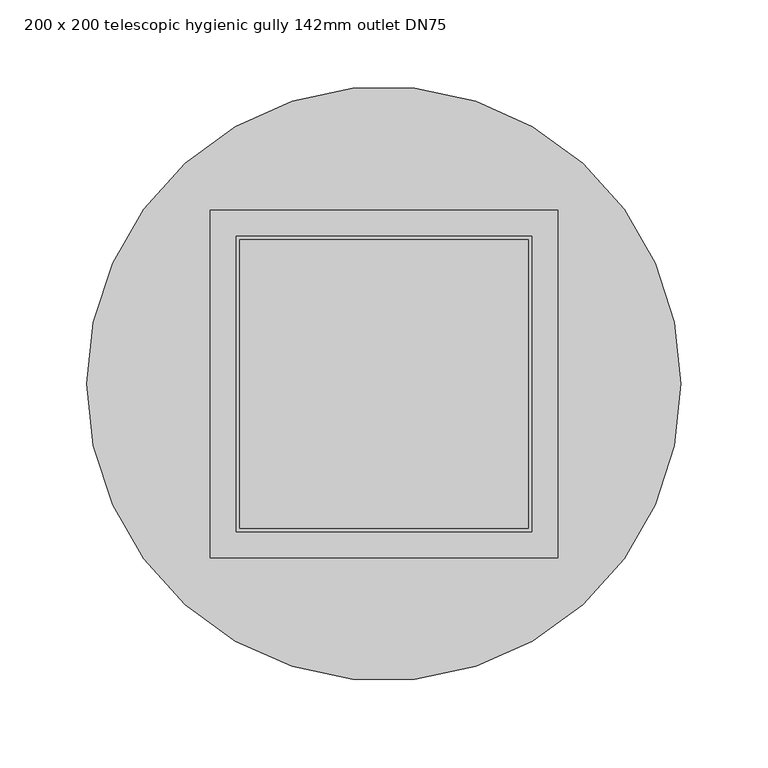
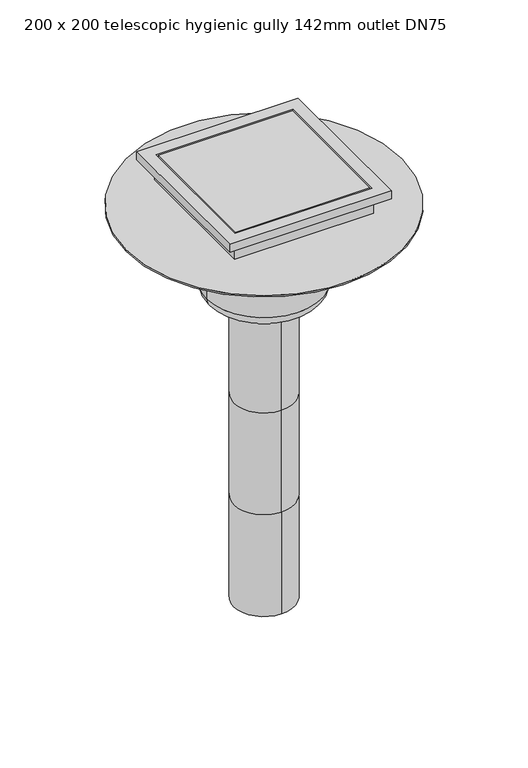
"""IFC4 building model written with IfcOpenShell, lengths in millimetres: sanitary terminal geometry, PF_ST_UN_Siphon telescopics eskis elongated hygiene first_ACO : 200 x 200 telescopic hygienic gully 142mm outlet DN75."""

from ifc_helpers import new_model, si_unit, point, frame, origin, origin_2d, place, context, project, spatial, polyline, circle_curve, ellipse_curve, trimmed, segment, composite_curve, outline, extrude, faceted_brep, source, transform, mapped, element, save
from ifc_brep_helpers import plane_surface, cylinder_surface, revolved_surface, advanced_brep


def sanitary_terminal_200_x_200_telescopic_hygienic_gully_142mm_524e371a(model_context):
    return source(origin(), model_context, "Body", "SolidModel", [
        extrude(outline(composite_curve([segment(trimmed(circle_curve(origin_2d(), 62.5), [point((-62.5, 0.0))], [point((62.5, 0.0))], False, "CARTESIAN"), True, "CONTINUOUS"), segment(trimmed(circle_curve(origin_2d(), 62.5), [point((62.5, 0.0))], [point((-62.5, 0.0))], False, "CARTESIAN"), True, "CONTINUOUS")], self_intersect=False)), frame((0.0, 0.0, -198.0), z_axis=(0.0, 0.0, 1.0), x_axis=(1.0, 0.0, 0.0)), (0.0, 0.0, 1.0), 45.0),
        faceted_brep([(100.0, 100.0, -130.0), (100.0, 100.0, -120.0), (100.0, -100.0, -120.0), (100.0, -100.0, -130.0), (86.0, 86.0, -153.0), (86.0, 86.0, -130.0), (86.0, -86.0, -130.0), (86.0, -86.0, -153.0), (85.0, -85.0, -120.0), (85.0, 85.0, -120.0), (85.0, 85.0, -143.0), (85.0, -85.0, -143.0), (-100.0, -100.0, -120.0), (-100.0, -100.0, -130.0), (-86.0, -86.0, -130.0), (-86.0, -86.0, -153.0), (-85.0, -85.0, -120.0), (-85.0, -85.0, -143.0), (-100.0, 100.0, -120.0), (-100.0, 100.0, -130.0), (-86.0, 86.0, -130.0), (-86.0, 86.0, -153.0), (-85.0, 85.0, -120.0), (-85.0, 85.0, -143.0)], [[[0, 1, 2, 3]], [[4, 5, 6, 7]], [[8, 9, 10, 11]], [[3, 2, 12, 13]], [[7, 6, 14, 15]], [[16, 8, 11, 17]], [[13, 12, 18, 19]], [[15, 14, 20, 21]], [[22, 16, 17, 23]], [[2, 1, 18, 12], [9, 8, 16, 22]], [[1, 0, 19, 18]], [[0, 3, 13, 19], [6, 5, 20, 14]], [[5, 4, 21, 20]], [[4, 7, 15, 21]], [[9, 22, 23, 10]], [[11, 10, 23, 17]]]),
        extrude(outline(polyline([(83.0, 83.0), (83.0, -83.0), (-83.0, -83.0), (-83.0, 83.0), (83.0, 83.0)])), frame((0.0, 0.0, -143.0), z_axis=(0.0, 0.0, 1.0), x_axis=(1.0, 0.0, 0.0)), (0.0, 0.0, 1.0), 23.0),
        advanced_brep(
        [(0.0, -37.5, -677.0), (0.0, 37.5, -677.0), (0.0, -37.5, -543.6666667), (0.0, 37.5, -543.6666667), (0.0, -37.5, -410.3333333), (0.0, 37.5, -410.3333333), (0.0, 37.5, -277.0), (37.5, 0.0, -277.0), (0.0, -37.5, -277.0), (-37.5, 0.0, -277.0), (71.0, 0.0, -262.0), (-71.0, 0.0, -262.0), (-71.0, 0.0, -165.0), (71.0, 0.0, -165.0), (56.0, 0.0, -277.0), (-56.0, 0.0, -277.0), (-171.0, 0.0, -165.0), (171.0, 0.0, -165.0), (-171.0, 0.0, -163.0), (171.0, 0.0, -163.0)],
        [
            (0, 1, circle_curve(frame((0.0, 0.0, -677.0), z_axis=(0.0, 0.0, -1.0), x_axis=(0.0, 1.0, 0.0)), 37.5)),
            (1, 0, circle_curve(frame((0.0, 0.0, -677.0), z_axis=(0.0, 0.0, -1.0), x_axis=(0.0, 1.0, 0.0)), 37.5)),
            (0, 2),
            (2, 3, circle_curve(frame((0.0, 0.0, -543.6666667), z_axis=(0.0, 0.0, -1.0), x_axis=(0.0, 1.0, 0.0)), 37.5)),
            (3, 1),
            (3, 2, circle_curve(frame((0.0, 0.0, -543.6666667), z_axis=(0.0, 0.0, -1.0), x_axis=(0.0, 1.0, 0.0)), 37.5)),
            (4, 2),
            (3, 5),
            (5, 4, circle_curve(frame((0.0, 0.0, -410.3333333), z_axis=(0.0, 0.0, -1.0), x_axis=(1.0, 0.0, 0.0)), 37.5)),
            (4, 5, circle_curve(frame((0.0, 0.0, -410.3333333), z_axis=(0.0, 0.0, -1.0), x_axis=(-1.0, 0.0, 0.0)), 37.5)),
            (5, 6),
            (6, 7, circle_curve(frame((0.0, 0.0, -277.0), z_axis=(0.0, 0.0, -1.0), x_axis=(0.0, 1.0, 0.0)), 37.5)),
            (7, 8, circle_curve(frame((0.0, 0.0, -277.0), z_axis=(0.0, 0.0, -1.0), x_axis=(0.0, 1.0, 0.0)), 37.5)),
            (8, 4),
            (8, 9, circle_curve(frame((0.0, 0.0, -277.0), z_axis=(0.0, 0.0, -1.0), x_axis=(0.0, 1.0, 0.0)), 37.5)),
            (9, 6, circle_curve(frame((0.0, 0.0, -277.0), z_axis=(0.0, 0.0, -1.0), x_axis=(0.0, 1.0, 0.0)), 37.5)),
            (10, 11, circle_curve(frame((0.0, 0.0, -262.0), z_axis=(0.0, 0.0, 1.0), x_axis=(-1.0, 0.0, 0.0)), 71.0)),
            (11, 12),
            (12, 13, circle_curve(frame((0.0, 0.0, -165.0), z_axis=(0.0, 0.0, -1.0), x_axis=(-1.0, 0.0, 0.0)), 71.0)),
            (13, 10),
            (11, 10, circle_curve(frame((0.0, 0.0, -262.0), z_axis=(0.0, 0.0, 1.0), x_axis=(-1.0, 0.0, 0.0)), 71.0)),
            (13, 12, circle_curve(frame((0.0, 0.0, -165.0), z_axis=(0.0, 0.0, -1.0), x_axis=(-1.0, 0.0, 0.0)), 71.0)),
            (10, 14, circle_curve(frame((56.0, 0.0, -262.0), z_axis=(0.0, 1.0, 0.0), x_axis=(-1.0, 0.0, 0.0)), 15.0)),
            (14, 15, circle_curve(frame((0.0, 0.0, -277.0), z_axis=(0.0, 0.0, 1.0), x_axis=(-1.0, 0.0, 0.0)), 56.0)),
            (15, 11, circle_curve(frame((-56.0, 0.0, -262.0), z_axis=(0.0, 1.0, 0.0), x_axis=(1.0, 0.0, 0.0)), 15.0)),
            (15, 14, circle_curve(frame((0.0, 0.0, -277.0), z_axis=(0.0, 0.0, 1.0), x_axis=(-1.0, 0.0, 0.0)), 56.0)),
            (14, 7),
            (9, 15),
            (16, 17, circle_curve(frame((0.0, 0.0, -165.0), z_axis=(0.0, 0.0, -1.0), x_axis=(1.0, 0.0, 0.0)), 171.0)),
            (17, 16, circle_curve(frame((0.0, 0.0, -165.0), z_axis=(0.0, 0.0, -1.0), x_axis=(1.0, 0.0, 0.0)), 171.0)),
            (18, 19, circle_curve(frame((0.0, 0.0, -163.0), z_axis=(0.0, 0.0, 1.0), x_axis=(1.0, 0.0, 0.0)), 171.0)),
            (19, 18, circle_curve(frame((0.0, 0.0, -163.0), z_axis=(0.0, 0.0, 1.0), x_axis=(1.0, 0.0, 0.0)), 171.0)),
            (17, 19),
            (18, 16),
        ],
        [
            plane_surface(frame((0.0, 37.5, -677.0), z_axis=(0.0, 0.0, -1.0), x_axis=(1.0, 0.0, 0.0))),
            cylinder_surface(frame((0.0, 0.0, -543.6666667), z_axis=(0.0, 0.0, -1.0), x_axis=(0.0, 1.0, 0.0)), 37.5),
            cylinder_surface(frame((0.0, 0.0, -410.3333333), z_axis=(0.0, 0.0, -1.0), x_axis=(1.0, 0.0, 0.0)), 37.5),
            cylinder_surface(frame((0.0, 0.0, -410.3333333), z_axis=(0.0, 0.0, -1.0), x_axis=(-1.0, 0.0, 0.0)), 37.5),
            cylinder_surface(frame((0.0, 0.0, -277.0), z_axis=(0.0, 0.0, -1.0), x_axis=(0.0, 1.0, 0.0)), 37.5),
            cylinder_surface(frame((0.0, 0.0, -103.0), z_axis=(0.0, 0.0, -1.0), x_axis=(-1.0, 0.0, 0.0)), 71.0),
            revolved_surface(trimmed(ellipse_curve(frame((-56.0, 0.0, -262.0), z_axis=(0.0, -1.0, 0.0), x_axis=(1.0, 0.0, 0.0)), 15.0, 15.0), [point((-71.0, 0.0, -262.0))], [point((-56.0, 0.0, -277.0))], True, "CARTESIAN"), (0.0, 0.0, -103.0), (0.0, 0.0, -1.0)),
            plane_surface(frame((0.0, 0.0, -277.0), z_axis=(0.0, 0.0, -1.0), x_axis=(-1.0, 0.0, 0.0))),
            plane_surface(frame((171.0, 0.0, -165.0), z_axis=(0.0, 0.0, -1.0), x_axis=(0.0, -1.0, 0.0))),
            plane_surface(frame((171.0, 0.0, -163.0), z_axis=(0.0, 0.0, 1.0), x_axis=(0.0, 1.0, 0.0))),
            cylinder_surface(frame((0.0, 0.0, -165.0), z_axis=(0.0, 0.0, 1.0), x_axis=(1.0, 0.0, 0.0)), 171.0),
        ],
        [
            (0, [[1, 2]]),
            (1, [[-1, 3, 4, 5]]),
            (1, [[-2, -5, 6, -3]]),
            (2, [[7, -6, 8, 9]]),
            (3, [[-7, 10, -8, -4]]),
            (4, [[11, 12, 13, 14, -9]]),
            (4, [[-11, -10, -14, 15, 16]]),
            (5, [[17, 18, 19, 20]]),
            (5, [[-18, 21, -20, 22]]),
            (6, [[-17, 23, 24, 25]]),
            (6, [[-21, -25, 26, -23]]),
            (7, [[-24, 27, -12, -16, 28]]),
            (7, [[-26, -28, -15, -13, -27]]),
            (8, [[29, 30], [-19, -22]]),
            (9, [[31, 32]]),
            (10, [[-30, 33, -31, 34]]),
            (10, [[-29, -34, -32, -33]]),
        ],
    ),
    ])


if __name__ == "__main__":
    model = new_model("IFC4")
    model_context = context("Model", 3, world=origin())
    ifc_project = project(units=[si_unit("LENGTHUNIT", "METRE", prefix="MILLI")], contexts=[model_context])
    site = spatial("IfcSite", under=ifc_project)
    building = spatial("IfcBuilding", under=site)
    placement = place(None, origin())
    sanitary_terminal_200_x_200_telescopic_hygienic_gully_142mm_shape = sanitary_terminal_200_x_200_telescopic_hygienic_gully_142mm_524e371a(model_context)
    element("IfcSanitaryTerminal", 1, ObjectType="PF_ST_UN_Siphon telescopics eskis elongated hygiene first_ACO : 200 x 200 telescopic hygienic gully 142mm outlet DN75", at=placement, inside=building, context=model_context, shape_type="MappedRepresentation", body=[
        mapped(sanitary_terminal_200_x_200_telescopic_hygienic_gully_142mm_shape, transform((0.0, 0.0, 0.0), x_axis=(1.0, 0.0, 0.0), y_axis=(0.0, 1.0, 0.0), z_axis=(0.0, 0.0, 1.0))),
    ])
    save(model, "model.ifc")
